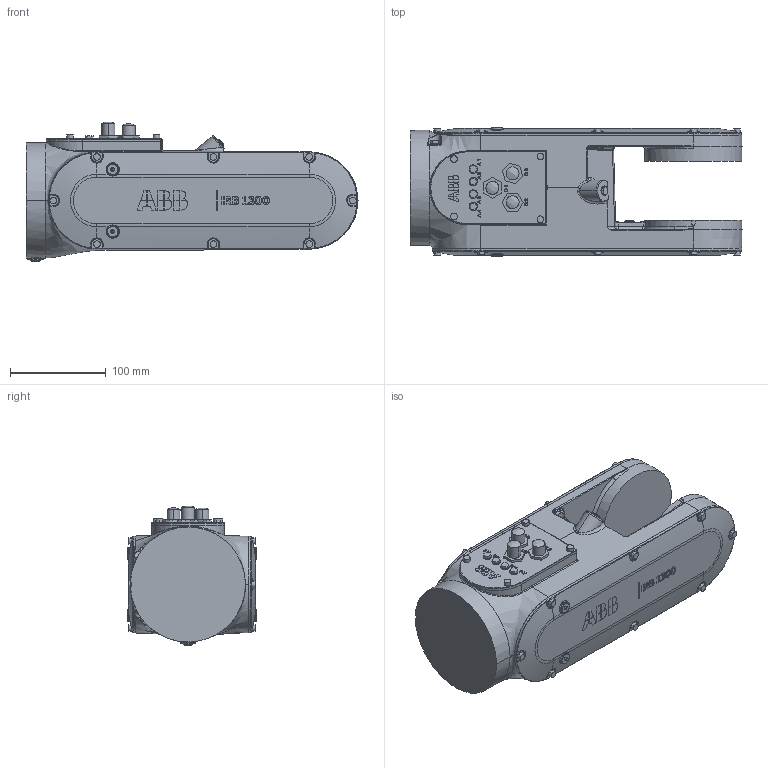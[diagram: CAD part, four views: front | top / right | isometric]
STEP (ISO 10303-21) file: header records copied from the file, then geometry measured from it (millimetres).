
FILE_DESCRIPTION (( 'STEP AP214' ), '1' );
FILE_NAME ('IRB1300 Type A_10Kg-1150-IP40IP67CR-STD_OC_00_link4.STEP', '2026-05-19T12:44:21', ( '' ), ( '' ), 'SwSTEP 2.0', 'SolidWorks 2024', '' );
FILE_SCHEMA (( 'AUTOMOTIVE_DESIGN' ));
Length unit declared in the file: millimetre
Products named in the file (1): IRB1300 Type A_10Kg-1150-IP40IP67CR-STD_OC_00_link4
Bounding box: 346.36 x 134.5 x 145.73 mm (x, y, z)
Volume: 3552435.6 mm3; surface area: 193329.4 mm2
Topology: 1 solids, 1 shells, 1462 faces, 3647 edges, 2291 vertices
Faces by surface type: plane 572, bspline 495, cylinder 214, torus 70, cone 68, sphere 43
Entity records: 70813 total; most frequent: CARTESIAN_POINT 39867, ORIENTED_EDGE 7250, DIRECTION 4770, EDGE_CURVE 3625, VERTEX_POINT 2291, AXIS2_PLACEMENT_3D 1638, EDGE_LOOP 1588, LINE 1494
